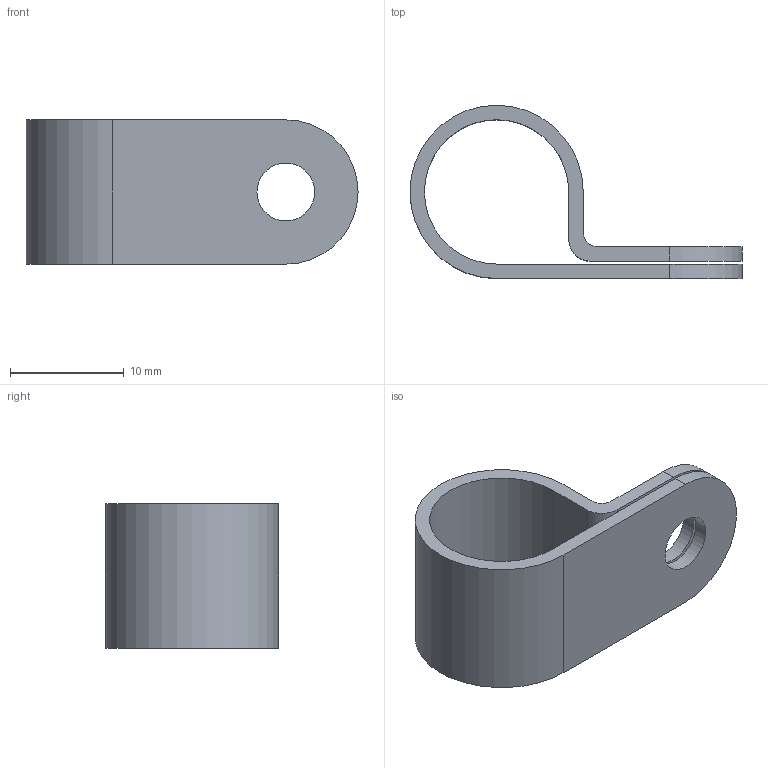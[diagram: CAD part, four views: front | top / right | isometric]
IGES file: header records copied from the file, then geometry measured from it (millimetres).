
Global section: file name: No Iges File Name specified; native system: AutoDesk Inventor R6.0; preprocessor: AutoDesk Inventor Iges Exporter R6.0; author: No Author specified; organization: No Organization specified; date: 20080103.174953; units: inch
Bounding box: 29.21 x 15.24 x 12.7 mm (x, y, z)
Surface area: 1974 mm2 (no closed solid volume)
Topology: 0 solids, 0 shells, 16 faces, 83 edges, 81 vertices
Faces by surface type: plane 8, revolution 6, bspline 2
